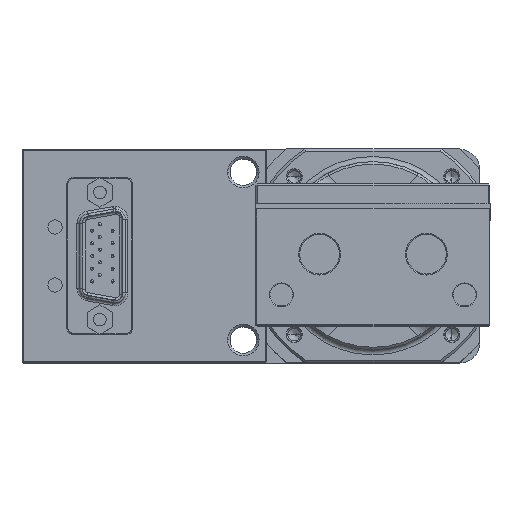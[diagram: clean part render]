
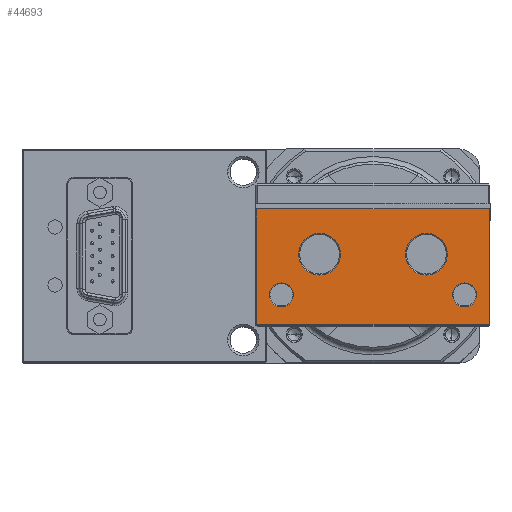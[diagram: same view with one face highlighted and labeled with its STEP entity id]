
A CAD part, top view. The second image highlights one B-rep face of the part: STEP entity #44693.
In plain terms, the highlighted planar face has unit normal (0, 0, 1).
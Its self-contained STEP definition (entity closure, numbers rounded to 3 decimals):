
#719 = CARTESIAN_POINT ( 'NONE',  ( -22.9, 0.1, 134. ) ) ;
#1143 = AXIS2_PLACEMENT_3D ( 'NONE', #61432, #78592, #9216 ) ;
#2324 = CARTESIAN_POINT ( 'NONE',  ( 14.6, 14., 134. ) ) ;
#2925 = DIRECTION ( 'NONE',  ( -1., 0., 0. ) ) ;
#3241 = AXIS2_PLACEMENT_3D ( 'NONE', #62819, #10634, #71617 ) ;
#4185 = DIRECTION ( 'NONE',  ( 0., 0., -1. ) ) ;
#5951 = ORIENTED_EDGE ( 'NONE', *, *, #36811, .T. ) ;
#8290 = AXIS2_PLACEMENT_3D ( 'NONE', #56448, #4185, #65200 ) ;
#8814 = ORIENTED_EDGE ( 'NONE', *, *, #85600, .T. ) ;
#9081 = LINE ( 'NONE', #36709, #93572 ) ;
#9216 = DIRECTION ( 'NONE',  ( -1., 0., 0. ) ) ;
#10634 = DIRECTION ( 'NONE',  ( 0., 0., -1. ) ) ;
#12311 = ORIENTED_EDGE ( 'NONE', *, *, #43654, .T. ) ;
#13992 = VECTOR ( 'NONE', #23506, 1000. ) ;
#15374 = CIRCLE ( 'NONE', #8290, 4.1 ) ;
#15585 = CARTESIAN_POINT ( 'NONE',  ( -6.4, 14., 134. ) ) ;
#15711 = CARTESIAN_POINT ( 'NONE',  ( 18., 6., 134. ) ) ;
#15990 = CARTESIAN_POINT ( 'NONE',  ( 10.5, 14., 134. ) ) ;
#16588 = FACE_BOUND ( 'NONE', #111429, .T. ) ;
#17218 = LINE ( 'NONE', #25446, #109883 ) ;
#18123 = CARTESIAN_POINT ( 'NONE',  ( 6.4, 14., 134. ) ) ;
#19102 = VERTEX_POINT ( 'NONE', #83857 ) ;
#19294 = FACE_BOUND ( 'NONE', #61283, .T. ) ;
#20005 = CARTESIAN_POINT ( 'NONE',  ( 20.35, 6., 134. ) ) ;
#22597 = VERTEX_POINT ( 'NONE', #108494 ) ;
#22685 = ORIENTED_EDGE ( 'NONE', *, *, #104245, .T. ) ;
#22881 = EDGE_CURVE ( 'NONE', #94703, #55608, #57844, .T. ) ;
#23408 = CARTESIAN_POINT ( 'NONE',  ( -22.9, 22.9, 134. ) ) ;
#23506 = DIRECTION ( 'NONE',  ( 0., -1., 0. ) ) ;
#24438 = DIRECTION ( 'NONE',  ( -1., 0., 0. ) ) ;
#24478 = ORIENTED_EDGE ( 'NONE', *, *, #108528, .T. ) ;
#24737 = DIRECTION ( 'NONE',  ( -1., 0., 0. ) ) ;
#25446 = CARTESIAN_POINT ( 'NONE',  ( 22.9, 23., 134. ) ) ;
#26646 = DIRECTION ( 'NONE',  ( 0., 0., -1. ) ) ;
#28337 = CARTESIAN_POINT ( 'NONE',  ( -20.35, 6., 134. ) ) ;
#30844 = AXIS2_PLACEMENT_3D ( 'NONE', #78875, #26646, #87618 ) ;
#30847 = VERTEX_POINT ( 'NONE', #23408 ) ;
#31660 = EDGE_LOOP ( 'NONE', ( #105494, #98257 ) ) ;
#33431 = CIRCLE ( 'NONE', #69360, 4.1 ) ;
#33920 = VERTEX_POINT ( 'NONE', #28337 ) ;
#34607 = VECTOR ( 'NONE', #84898, 1000. ) ;
#36567 = ORIENTED_EDGE ( 'NONE', *, *, #91053, .T. ) ;
#36584 = CARTESIAN_POINT ( 'NONE',  ( -10.5, 14., 134. ) ) ;
#36709 = CARTESIAN_POINT ( 'NONE',  ( -23., 22.9, 134. ) ) ;
#36811 = EDGE_CURVE ( 'NONE', #55608, #48647, #17218, .T. ) ;
#37073 = CIRCLE ( 'NONE', #30844, 2.35 ) ;
#37759 = CARTESIAN_POINT ( 'NONE',  ( 18., 6., 134. ) ) ;
#43654 = EDGE_CURVE ( 'NONE', #30847, #94703, #86233, .T. ) ;
#44693 = ADVANCED_FACE ( 'NONE', ( #106507, #19294, #83440, #16588, #62925 ), #52690, .F. ) ;
#44849 = EDGE_LOOP ( 'NONE', ( #80930, #12311, #111626, #5951 ) ) ;
#45358 = DIRECTION ( 'NONE',  ( -1., 0., 0. ) ) ;
#46512 = DIRECTION ( 'NONE',  ( -1., 0., 0. ) ) ;
#46941 = CIRCLE ( 'NONE', #69386, 2.35 ) ;
#48647 = VERTEX_POINT ( 'NONE', #82153 ) ;
#52690 = PLANE ( 'NONE',  #1143 ) ;
#54253 = DIRECTION ( 'NONE',  ( -1., 0., 0. ) ) ;
#55173 = DIRECTION ( 'NONE',  ( 0., 0., -1. ) ) ;
#55608 = VERTEX_POINT ( 'NONE', #59989 ) ;
#56448 = CARTESIAN_POINT ( 'NONE',  ( 10.5, 14., 134. ) ) ;
#57844 = LINE ( 'NONE', #93607, #34607 ) ;
#59989 = CARTESIAN_POINT ( 'NONE',  ( 22.9, 0.1, 134. ) ) ;
#60656 = EDGE_CURVE ( 'NONE', #96889, #96241, #67795, .T. ) ;
#61283 = EDGE_LOOP ( 'NONE', ( #24478, #74802 ) ) ;
#61432 = CARTESIAN_POINT ( 'NONE',  ( -23., 0., 134. ) ) ;
#62819 = CARTESIAN_POINT ( 'NONE',  ( -10.5, 14., 134. ) ) ;
#62925 = FACE_OUTER_BOUND ( 'NONE', #44849, .T. ) ;
#65200 = DIRECTION ( 'NONE',  ( -1., 0., 0. ) ) ;
#66601 = CARTESIAN_POINT ( 'NONE',  ( -22.9, 0., 134. ) ) ;
#67051 = CARTESIAN_POINT ( 'NONE',  ( -15.65, 6., 134. ) ) ;
#67795 = CIRCLE ( 'NONE', #112729, 4.1 ) ;
#67877 = EDGE_LOOP ( 'NONE', ( #95812, #36567 ) ) ;
#69360 = AXIS2_PLACEMENT_3D ( 'NONE', #36584, #97507, #45358 ) ;
#69386 = AXIS2_PLACEMENT_3D ( 'NONE', #107293, #55173, #2925 ) ;
#71617 = DIRECTION ( 'NONE',  ( -1., 0., 0. ) ) ;
#74040 = VERTEX_POINT ( 'NONE', #20005 ) ;
#74802 = ORIENTED_EDGE ( 'NONE', *, *, #95609, .T. ) ;
#76696 = DIRECTION ( 'NONE',  ( 0., 0., -1. ) ) ;
#76998 = DIRECTION ( 'NONE',  ( 0., 0., -1. ) ) ;
#77670 = DIRECTION ( 'NONE',  ( 0., 1., 0. ) ) ;
#78592 = DIRECTION ( 'NONE',  ( 0., 0., -1. ) ) ;
#78875 = CARTESIAN_POINT ( 'NONE',  ( -18., 6., 134. ) ) ;
#80930 = ORIENTED_EDGE ( 'NONE', *, *, #84936, .T. ) ;
#81718 = VERTEX_POINT ( 'NONE', #67051 ) ;
#82153 = CARTESIAN_POINT ( 'NONE',  ( 22.9, 22.9, 134. ) ) ;
#83440 = FACE_BOUND ( 'NONE', #67877, .T. ) ;
#83857 = CARTESIAN_POINT ( 'NONE',  ( 15.65, 6., 134. ) ) ;
#84898 = DIRECTION ( 'NONE',  ( 1., 0., 0. ) ) ;
#84936 = EDGE_CURVE ( 'NONE', #48647, #30847, #9081, .T. ) ;
#85600 = EDGE_CURVE ( 'NONE', #19102, #74040, #107092, .T. ) ;
#86233 = LINE ( 'NONE', #66601, #13992 ) ;
#87618 = DIRECTION ( 'NONE',  ( -1., 0., 0. ) ) ;
#88066 = EDGE_CURVE ( 'NONE', #81718, #33920, #46941, .T. ) ;
#91053 = EDGE_CURVE ( 'NONE', #33920, #81718, #37073, .T. ) ;
#91488 = VERTEX_POINT ( 'NONE', #15585 ) ;
#92693 = AXIS2_PLACEMENT_3D ( 'NONE', #15711, #76696, #24438 ) ;
#93572 = VECTOR ( 'NONE', #54253, 1000. ) ;
#93607 = CARTESIAN_POINT ( 'NONE',  ( 23., 0.1, 134. ) ) ;
#94703 = VERTEX_POINT ( 'NONE', #719 ) ;
#95609 = EDGE_CURVE ( 'NONE', #22597, #91488, #97180, .T. ) ;
#95812 = ORIENTED_EDGE ( 'NONE', *, *, #88066, .T. ) ;
#96241 = VERTEX_POINT ( 'NONE', #18123 ) ;
#96331 = CIRCLE ( 'NONE', #92693, 2.35 ) ;
#96889 = VERTEX_POINT ( 'NONE', #2324 ) ;
#97180 = CIRCLE ( 'NONE', #3241, 4.1 ) ;
#97507 = DIRECTION ( 'NONE',  ( 0., 0., -1. ) ) ;
#98257 = ORIENTED_EDGE ( 'NONE', *, *, #112707, .T. ) ;
#98303 = AXIS2_PLACEMENT_3D ( 'NONE', #37759, #98673, #46512 ) ;
#98673 = DIRECTION ( 'NONE',  ( 0., 0., -1. ) ) ;
#104245 = EDGE_CURVE ( 'NONE', #74040, #19102, #96331, .T. ) ;
#105494 = ORIENTED_EDGE ( 'NONE', *, *, #60656, .T. ) ;
#106507 = FACE_BOUND ( 'NONE', #31660, .T. ) ;
#107092 = CIRCLE ( 'NONE', #98303, 2.35 ) ;
#107293 = CARTESIAN_POINT ( 'NONE',  ( -18., 6., 134. ) ) ;
#108494 = CARTESIAN_POINT ( 'NONE',  ( -14.6, 14., 134. ) ) ;
#108528 = EDGE_CURVE ( 'NONE', #91488, #22597, #33431, .T. ) ;
#109883 = VECTOR ( 'NONE', #77670, 1000. ) ;
#111429 = EDGE_LOOP ( 'NONE', ( #22685, #8814 ) ) ;
#111626 = ORIENTED_EDGE ( 'NONE', *, *, #22881, .T. ) ;
#112707 = EDGE_CURVE ( 'NONE', #96241, #96889, #15374, .T. ) ;
#112729 = AXIS2_PLACEMENT_3D ( 'NONE', #15990, #76998, #24737 ) ;
